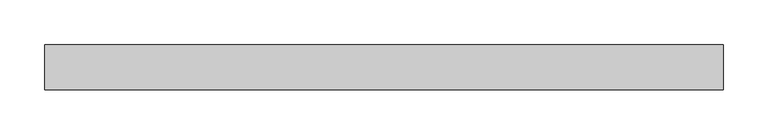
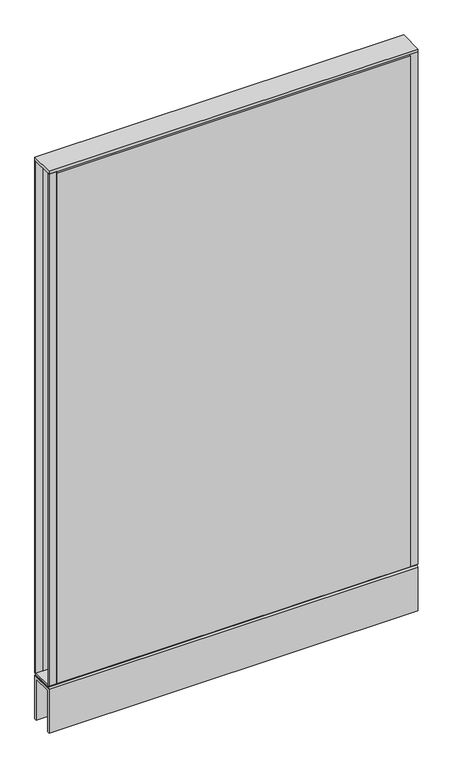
"""IFC4 building model written with IfcOpenShell, lengths in millimetres: furniture geometry, Steelcase - Kick Solutions - Panel - Monolithic - Tackable Acoustical : 48H x 30W."""

from ifc_helpers import new_model, si_unit, frame, origin, place, context, project, spatial, polyline, outline, extrude, source, transform, mapped, element, save


def furniture_af0aaa28(model_context):
    return source(origin(), model_context, "Body", "SweptSolid", [
        extrude(outline(polyline([(0.0, 101.7169049), (-3.1750015, 101.7169049), (-3.1750015, 1219.3169018), (0.0, 1216.2357466), (0.0, 101.7169049)])), frame((15.8749996, 0.0, 0.0), z_axis=(1.0, 0.0, 0.0), x_axis=(0.0, 1.0, 0.0)), (0.0, 0.0, 1.0), 730.2500008),
        extrude(outline(polyline([(-50.8000015, 101.7169049), (-50.8000015, 1216.2357466), (-47.625, 1219.3169018), (-47.625, 101.7169049), (-50.8000015, 101.7169049)])), frame((15.8749996, 0.0, 0.0), z_axis=(1.0, 0.0, 0.0), x_axis=(0.0, 1.0, 0.0)), (0.0, 0.0, 1.0), 730.2500008),
        extrude(outline(polyline([(762.0, -3.1750015), (746.1250004, -3.1750015), (746.1250004, 0.0), (762.0, 0.0), (762.0, -3.1750015)])), frame((0.0, 0.0, 101.7169049), z_axis=(0.0, 0.0, 1.0), x_axis=(1.0, 0.0, 0.0)), (0.0, 0.0, 1.0), 1117.599997),
        extrude(outline(polyline([(15.8749996, -50.8000015), (0.0, -50.8000015), (0.0, -47.625), (15.8749996, -47.625), (15.8749996, -50.8000015)])), frame((0.0, 0.0, 101.7169049), z_axis=(0.0, 0.0, 1.0), x_axis=(1.0, 0.0, 0.0)), (0.0, 0.0, 1.0), 1117.599997),
        extrude(outline(polyline([(-50.7995075, 101.7169049), (-0.000494, 101.7169049), (-3.0583512, 98.5421458), (-47.7416503, 98.5421458), (-50.7995075, 101.7169049)])), frame((0.0, 0.0, 0.0), z_axis=(1.0, 0.0, 0.0), x_axis=(0.0, 1.0, 0.0)), (0.0, 0.0, 1.0), 762.0),
        extrude(outline(polyline([(762.0, 0.0), (762.0, -50.8000015), (0.0, -50.8000015), (0.0, 0.0), (762.0, 0.0)])), frame((0.0, 0.0, 1219.3169018), z_axis=(0.0, 0.0, 1.0), x_axis=(1.0, 0.0, 0.0)), (0.0, 0.0, 1.0), 6.35),
        extrude(outline(polyline([(15.8749996, -3.1750015), (0.0, -3.1750015), (0.0, 0.0), (15.8749996, 0.0), (15.8749996, -3.1750015)])), frame((0.0, 0.0, 101.7169049), z_axis=(0.0, 0.0, 1.0), x_axis=(1.0, 0.0, 0.0)), (0.0, 0.0, 1.0), 1117.599997),
        extrude(outline(polyline([(762.0, -50.8000015), (746.1250004, -50.8000015), (746.1250004, -47.625), (762.0, -47.625), (762.0, -50.8000015)])), frame((0.0, 0.0, 101.7169049), z_axis=(0.0, 0.0, 1.0), x_axis=(1.0, 0.0, 0.0)), (0.0, 0.0, 1.0), 1117.599997),
        extrude(outline(polyline([(-50.8000015, 95.3668927), (-47.6247484, 98.5421458), (-3.1752531, 98.5421458), (0.0, 95.3668927), (-50.8000015, 95.3668927)])), frame((0.0, 0.0, 0.0), z_axis=(1.0, 0.0, 0.0), x_axis=(0.0, 1.0, 0.0)), (0.0, 0.0, 1.0), 762.0),
        extrude(outline(polyline([(0.0, 0.0), (-5.08, 0.0), (-5.08, 90.2869018), (-45.7200015, 90.2869018), (-45.7200015, 0.0), (-50.8000015, 0.0), (-50.8000015, 95.3669018), (0.0, 95.3669018), (0.0, 0.0)])), frame((0.0, 0.0, 0.0), z_axis=(1.0, 0.0, 0.0), x_axis=(0.0, 1.0, 0.0)), (0.0, 0.0, 1.0), 762.0),
    ])


if __name__ == "__main__":
    model = new_model("IFC4")
    model_context = context("Model", 3, world=origin())
    ifc_project = project(units=[si_unit("LENGTHUNIT", "METRE", prefix="MILLI")], contexts=[model_context])
    site = spatial("IfcSite", under=ifc_project)
    building = spatial("IfcBuilding", under=site)
    placement = place(None, origin())
    furniture_shape = furniture_af0aaa28(model_context)
    element("IfcFurniture", 1, ObjectType="Steelcase - Kick Solutions - Panel - Monolithic - Tackable Acoustical : 48H x 30W", at=placement, inside=building, context=model_context, shape_type="MappedRepresentation", body=[
        mapped(furniture_shape, transform((0.0, 0.0, 0.0), x_axis=(1.0, 0.0, 0.0), y_axis=(0.0, 1.0, 0.0), z_axis=(0.0, 0.0, 1.0))),
    ])
    save(model, "model.ifc")
